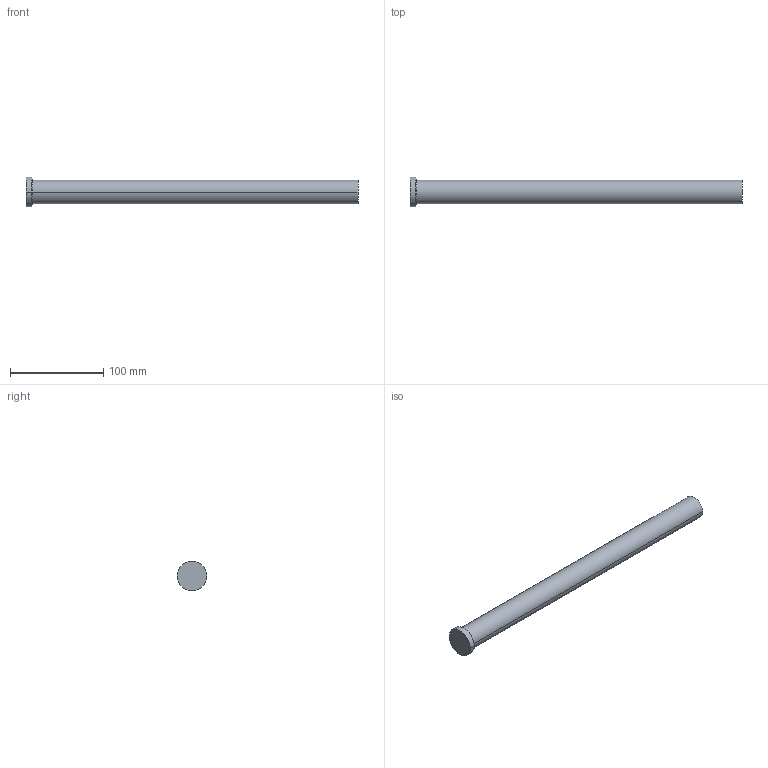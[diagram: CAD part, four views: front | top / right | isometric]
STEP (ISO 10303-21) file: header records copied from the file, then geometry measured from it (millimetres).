
FILE_DESCRIPTION (( 'STEP AP214' ), '1' );
FILE_NAME ('P47-14.STEP', '2020-03-12T12:27:19', ( '' ), ( '' ), 'SwSTEP 2.0', 'SolidWorks 2018', '' );
FILE_SCHEMA (( 'AUTOMOTIVE_DESIGN' ));
Length unit declared in the file: inch
Products named in the file (1): P47-14
Bounding box: 355.6 x 31.75 x 31.75 mm (x, y, z)
Volume: 181827.2 mm3; surface area: 30034.1 mm2
Topology: 1 solids, 1 shells, 13 faces, 24 edges, 14 vertices
Faces by surface type: cone 4, cylinder 4, plane 3, torus 2
Entity records: 366 total; most frequent: DIRECTION 68, CARTESIAN_POINT 52, ORIENTED_EDGE 48, AXIS2_PLACEMENT_3D 30, EDGE_CURVE 24, CIRCLE 16, VERTEX_POINT 14, EDGE_LOOP 14
